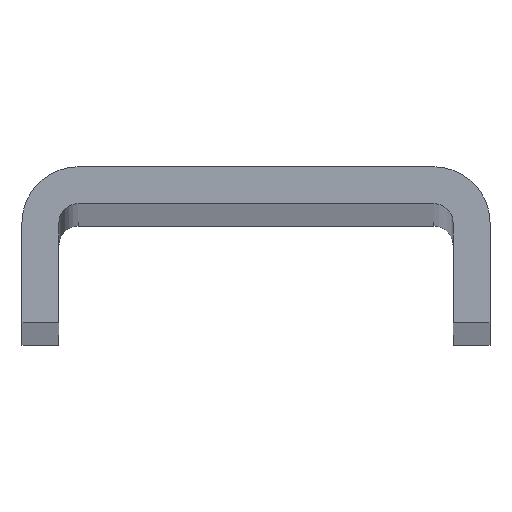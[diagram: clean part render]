
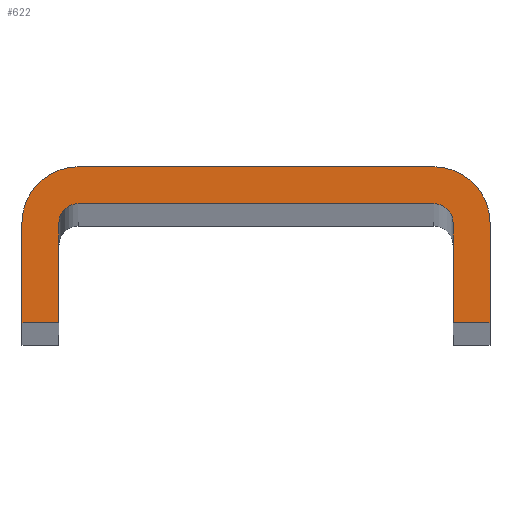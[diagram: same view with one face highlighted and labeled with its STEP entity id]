
A CAD part, top view. The second image highlights one B-rep face of the part: STEP entity #622.
In plain terms, the highlighted planar face has unit normal (0, 0, 1).
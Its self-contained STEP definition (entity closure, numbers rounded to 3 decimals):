
#8 = DIRECTION ( 'NONE',  ( -1., 0., 0. ) ) ;
#19 = CARTESIAN_POINT ( 'NONE',  ( -16.05, 8.128, 0. ) ) ;
#22 = DIRECTION ( 'NONE',  ( 0., 0., -1. ) ) ;
#25 = EDGE_CURVE ( 'NONE', #30, #311, #137, .T. ) ;
#30 = VERTEX_POINT ( 'NONE', #19 ) ;
#38 = DIRECTION ( 'NONE',  ( 0., 0., -1. ) ) ;
#41 = CARTESIAN_POINT ( 'NONE',  ( -19.05, 8.128, 0. ) ) ;
#43 = VERTEX_POINT ( 'NONE', #41 ) ;
#48 = DIRECTION ( 'NONE',  ( -1., 0., 0. ) ) ;
#53 = EDGE_CURVE ( 'NONE', #372, #162, #216, .T. ) ;
#61 = CARTESIAN_POINT ( 'NONE',  ( 19.05, 8.128, 0. ) ) ;
#70 = CARTESIAN_POINT ( 'NONE',  ( -14.478, 12.7, 0. ) ) ;
#78 = LINE ( 'NONE', #220, #197 ) ;
#121 = AXIS2_PLACEMENT_3D ( 'NONE', #467, #417, #379 ) ;
#122 = CARTESIAN_POINT ( 'NONE',  ( 16.05, 8.128, 0. ) ) ;
#129 = LINE ( 'NONE', #61, #525 ) ;
#133 = EDGE_CURVE ( 'NONE', #476, #207, #419, .T. ) ;
#135 = DIRECTION ( 'NONE',  ( 1., 0., 0. ) ) ;
#136 = VECTOR ( 'NONE', #401, 1000. ) ;
#137 = CIRCLE ( 'NONE', #121, 1.572 ) ;
#138 = CARTESIAN_POINT ( 'NONE',  ( -16.05, 0., 0. ) ) ;
#150 = CARTESIAN_POINT ( 'NONE',  ( 16.05, 8.128, 0. ) ) ;
#162 = VERTEX_POINT ( 'NONE', #378 ) ;
#164 = CARTESIAN_POINT ( 'NONE',  ( 19.05, 8.128, 0. ) ) ;
#171 = LINE ( 'NONE', #470, #300 ) ;
#180 = ORIENTED_EDGE ( 'NONE', *, *, #460, .T. ) ;
#183 = CARTESIAN_POINT ( 'NONE',  ( -16.05, 0., 0. ) ) ;
#184 = ORIENTED_EDGE ( 'NONE', *, *, #279, .T. ) ;
#197 = VECTOR ( 'NONE', #539, 1000. ) ;
#198 = DIRECTION ( 'NONE',  ( 1., 0., 0. ) ) ;
#201 = AXIS2_PLACEMENT_3D ( 'NONE', #348, #22, #397 ) ;
#207 = VERTEX_POINT ( 'NONE', #164 ) ;
#216 = LINE ( 'NONE', #150, #268 ) ;
#220 = CARTESIAN_POINT ( 'NONE',  ( -16.05, 0., 0. ) ) ;
#221 = FACE_OUTER_BOUND ( 'NONE', #595, .T. ) ;
#240 = EDGE_CURVE ( 'NONE', #207, #540, #129, .T. ) ;
#252 = AXIS2_PLACEMENT_3D ( 'NONE', #641, #334, #8 ) ;
#268 = VECTOR ( 'NONE', #624, 1000. ) ;
#279 = EDGE_CURVE ( 'NONE', #380, #372, #491, .T. ) ;
#283 = EDGE_CURVE ( 'NONE', #567, #30, #78, .T. ) ;
#287 = ORIENTED_EDGE ( 'NONE', *, *, #594, .F. ) ;
#293 = DIRECTION ( 'NONE',  ( 1., 0., 0. ) ) ;
#297 = VERTEX_POINT ( 'NONE', #385 ) ;
#300 = VECTOR ( 'NONE', #198, 1000. ) ;
#311 = VERTEX_POINT ( 'NONE', #335 ) ;
#334 = DIRECTION ( 'NONE',  ( 0., 0., -1. ) ) ;
#335 = CARTESIAN_POINT ( 'NONE',  ( -14.478, 9.7, 0. ) ) ;
#344 = VECTOR ( 'NONE', #135, 1000. ) ;
#348 = CARTESIAN_POINT ( 'NONE',  ( -14.478, 8.128, 0. ) ) ;
#354 = ORIENTED_EDGE ( 'NONE', *, *, #133, .F. ) ;
#357 = VERTEX_POINT ( 'NONE', #70 ) ;
#363 = DIRECTION ( 'NONE',  ( 0., 1., 0. ) ) ;
#366 = CARTESIAN_POINT ( 'NONE',  ( -14.478, 8.128, 0. ) ) ;
#370 = VECTOR ( 'NONE', #363, 1000. ) ;
#372 = VERTEX_POINT ( 'NONE', #122 ) ;
#374 = DIRECTION ( 'NONE',  ( 0., 0., -1. ) ) ;
#378 = CARTESIAN_POINT ( 'NONE',  ( 16.05, 0., 0. ) ) ;
#379 = DIRECTION ( 'NONE',  ( -1., 0., 0. ) ) ;
#380 = VERTEX_POINT ( 'NONE', #498 ) ;
#385 = CARTESIAN_POINT ( 'NONE',  ( -19.05, 0., 0. ) ) ;
#387 = ORIENTED_EDGE ( 'NONE', *, *, #423, .F. ) ;
#397 = DIRECTION ( 'NONE',  ( -1., 0., 0. ) ) ;
#401 = DIRECTION ( 'NONE',  ( -1., 0., 0. ) ) ;
#412 = ORIENTED_EDGE ( 'NONE', *, *, #25, .T. ) ;
#416 = DIRECTION ( 'NONE',  ( -1., 0., 0. ) ) ;
#417 = DIRECTION ( 'NONE',  ( 0., 0., -1. ) ) ;
#419 = CIRCLE ( 'NONE', #553, 4.572 ) ;
#423 = EDGE_CURVE ( 'NONE', #43, #357, #684, .T. ) ;
#429 = LINE ( 'NONE', #183, #136 ) ;
#434 = LINE ( 'NONE', #503, #662 ) ;
#440 = ORIENTED_EDGE ( 'NONE', *, *, #541, .T. ) ;
#447 = ORIENTED_EDGE ( 'NONE', *, *, #53, .T. ) ;
#460 = EDGE_CURVE ( 'NONE', #162, #540, #434, .T. ) ;
#465 = PLANE ( 'NONE',  #614 ) ;
#467 = CARTESIAN_POINT ( 'NONE',  ( -14.478, 8.128, 0. ) ) ;
#470 = CARTESIAN_POINT ( 'NONE',  ( -14.478, 12.7, 0. ) ) ;
#476 = VERTEX_POINT ( 'NONE', #555 ) ;
#490 = DIRECTION ( 'NONE',  ( 0., -1., 0. ) ) ;
#491 = CIRCLE ( 'NONE', #252, 1.572 ) ;
#494 = ORIENTED_EDGE ( 'NONE', *, *, #240, .F. ) ;
#496 = EDGE_CURVE ( 'NONE', #567, #297, #429, .T. ) ;
#498 = CARTESIAN_POINT ( 'NONE',  ( 14.478, 9.7, 0. ) ) ;
#503 = CARTESIAN_POINT ( 'NONE',  ( 16.05, 0., 0. ) ) ;
#506 = LINE ( 'NONE', #569, #370 ) ;
#514 = ORIENTED_EDGE ( 'NONE', *, *, #496, .F. ) ;
#525 = VECTOR ( 'NONE', #490, 1000. ) ;
#539 = DIRECTION ( 'NONE',  ( 0., 1., 0. ) ) ;
#540 = VERTEX_POINT ( 'NONE', #656 ) ;
#541 = EDGE_CURVE ( 'NONE', #311, #380, #634, .T. ) ;
#553 = AXIS2_PLACEMENT_3D ( 'NONE', #676, #374, #48 ) ;
#555 = CARTESIAN_POINT ( 'NONE',  ( 14.478, 12.7, 0. ) ) ;
#567 = VERTEX_POINT ( 'NONE', #138 ) ;
#569 = CARTESIAN_POINT ( 'NONE',  ( -19.05, 0., 0. ) ) ;
#594 = EDGE_CURVE ( 'NONE', #297, #43, #506, .T. ) ;
#595 = EDGE_LOOP ( 'NONE', ( #412, #440, #184, #447, #180, #494, #354, #620, #387, #287, #514, #669 ) ) ;
#609 = CARTESIAN_POINT ( 'NONE',  ( -14.478, 9.7, 0. ) ) ;
#614 = AXIS2_PLACEMENT_3D ( 'NONE', #366, #38, #416 ) ;
#620 = ORIENTED_EDGE ( 'NONE', *, *, #642, .F. ) ;
#622 = ADVANCED_FACE ( 'NONE', ( #221 ), #465, .F. ) ;
#624 = DIRECTION ( 'NONE',  ( 0., -1., 0. ) ) ;
#634 = LINE ( 'NONE', #609, #344 ) ;
#641 = CARTESIAN_POINT ( 'NONE',  ( 14.478, 8.128, 0. ) ) ;
#642 = EDGE_CURVE ( 'NONE', #357, #476, #171, .T. ) ;
#656 = CARTESIAN_POINT ( 'NONE',  ( 19.05, 0., 0. ) ) ;
#662 = VECTOR ( 'NONE', #293, 1000. ) ;
#669 = ORIENTED_EDGE ( 'NONE', *, *, #283, .T. ) ;
#676 = CARTESIAN_POINT ( 'NONE',  ( 14.478, 8.128, 0. ) ) ;
#684 = CIRCLE ( 'NONE', #201, 4.572 ) ;
